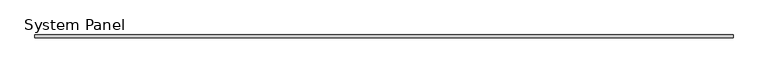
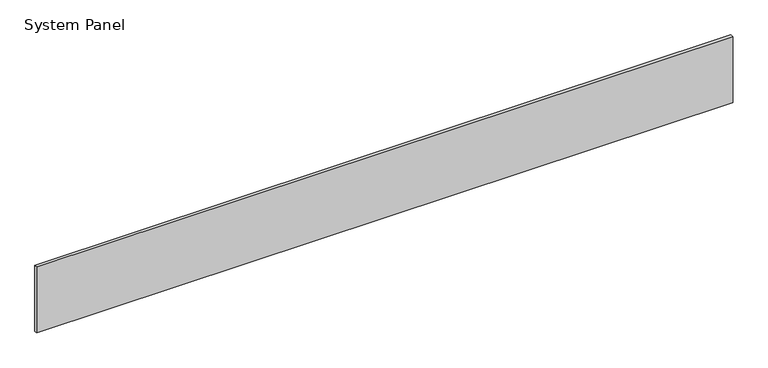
"""IFC4 building model written with IfcOpenShell, lengths in millimetres: plate geometry, System Panel : Purline 25mm Horizontal - Plain RHEA - PUR."""

from ifc_helpers import new_model, si_unit, origin, origin_with_axes, place, context, project, spatial, polyline, outline, extrude, source, transform, mapped, element, save


def system_panel_d7ae92b4(model_context):
    return source(origin(), model_context, "Body", "SweptSolid", [
        extrude(outline(polyline([(2995.0, 0.0), (-2995.0, 0.0), (-2995.0, 25.0), (2995.0, 25.0), (2995.0, 0.0)])), origin_with_axes(), (0.0, 0.0, 1.0), 600.0),
    ])


if __name__ == "__main__":
    model = new_model("IFC4")
    model_context = context("Model", 3, world=origin())
    ifc_project = project(units=[si_unit("LENGTHUNIT", "METRE", prefix="MILLI")], contexts=[model_context])
    site = spatial("IfcSite", under=ifc_project)
    building = spatial("IfcBuilding", under=site)
    placement = place(None, origin())
    system_panel_shape = system_panel_d7ae92b4(model_context)
    element("IfcPlate", 1, ObjectType="System Panel : Purline 25mm Horizontal - Plain RHEA - PUR", at=placement, inside=building, context=model_context, shape_type="MappedRepresentation", body=[
        mapped(system_panel_shape, transform((0.0, 0.0, 0.0), x_axis=(1.0, 0.0, 0.0), y_axis=(0.0, 1.0, 0.0), z_axis=(0.0, 0.0, 1.0))),
    ])
    save(model, "model.ifc")
